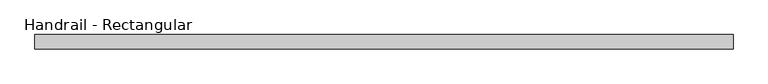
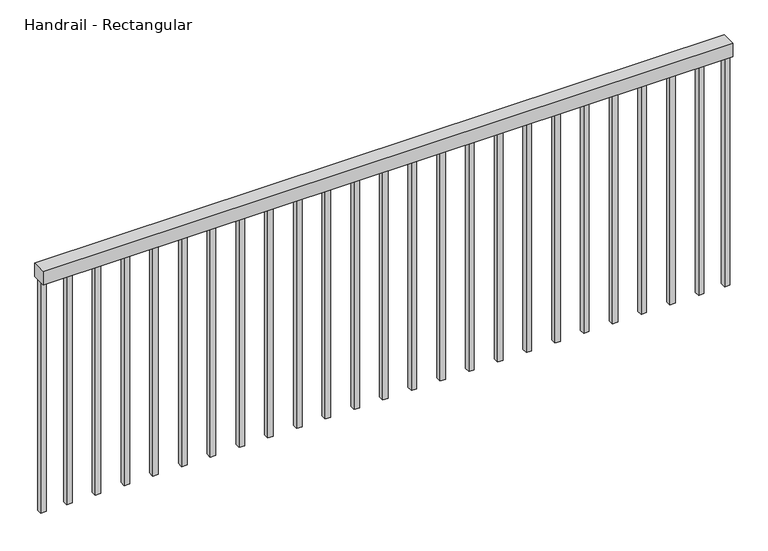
"""IFC4 building model written with IfcOpenShell, lengths in millimetres: railing geometry, Handrail - Rectangular."""

from ifc_helpers import new_model, si_unit, frame, origin, place, context, project, spatial, polyline, outline, extrude, source, transform, mapped, element, save


def handrail_rectangular_46f00ba5(model_context):
    return source(origin(), model_context, "Body", "SweptSolid", [
        extrude(outline(polyline([(49008.9536092, 3730.6430198), (49008.9536092, 3781.4430198), (51447.3536092, 3781.4430198), (51447.3536092, 3730.6430198), (49008.9536092, 3730.6430198)])), frame((0.0, 0.0, 3340.1), z_axis=(0.0, 0.0, 1.0), x_axis=(1.0, 0.0, 0.0)), (0.0, 0.0, 1.0), 50.8),
        extrude(outline(polyline([(51336.2286092, 3746.5180198), (51336.2286092, 3765.5680198), (51355.2786092, 3765.5680198), (51355.2786092, 3746.5180198), (51336.2286092, 3746.5180198)])), frame((0.0, 0.0, 2476.5), z_axis=(0.0, 0.0, 1.0), x_axis=(1.0, 0.0, 0.0)), (0.0, 0.0, 1.0), 863.6),
        extrude(outline(polyline([(51234.6286092, 3746.5180198), (51234.6286092, 3765.5680198), (51253.6786092, 3765.5680198), (51253.6786092, 3746.5180198), (51234.6286092, 3746.5180198)])), frame((0.0, 0.0, 2476.5), z_axis=(0.0, 0.0, 1.0), x_axis=(1.0, 0.0, 0.0)), (0.0, 0.0, 1.0), 863.6),
        extrude(outline(polyline([(51133.0286092, 3746.5180198), (51133.0286092, 3765.5680198), (51152.0786092, 3765.5680198), (51152.0786092, 3746.5180198), (51133.0286092, 3746.5180198)])), frame((0.0, 0.0, 2476.5), z_axis=(0.0, 0.0, 1.0), x_axis=(1.0, 0.0, 0.0)), (0.0, 0.0, 1.0), 863.6),
        extrude(outline(polyline([(51031.4286092, 3746.5180198), (51031.4286092, 3765.5680198), (51050.4786092, 3765.5680198), (51050.4786092, 3746.5180198), (51031.4286092, 3746.5180198)])), frame((0.0, 0.0, 2476.5), z_axis=(0.0, 0.0, 1.0), x_axis=(1.0, 0.0, 0.0)), (0.0, 0.0, 1.0), 863.6),
        extrude(outline(polyline([(50929.8286092, 3746.5180198), (50929.8286092, 3765.5680198), (50948.8786092, 3765.5680198), (50948.8786092, 3746.5180198), (50929.8286092, 3746.5180198)])), frame((0.0, 0.0, 2476.5), z_axis=(0.0, 0.0, 1.0), x_axis=(1.0, 0.0, 0.0)), (0.0, 0.0, 1.0), 863.6),
        extrude(outline(polyline([(50828.2286092, 3746.5180198), (50828.2286092, 3765.5680198), (50847.2786092, 3765.5680198), (50847.2786092, 3746.5180198), (50828.2286092, 3746.5180198)])), frame((0.0, 0.0, 2476.5), z_axis=(0.0, 0.0, 1.0), x_axis=(1.0, 0.0, 0.0)), (0.0, 0.0, 1.0), 863.6),
        extrude(outline(polyline([(50726.6286092, 3746.5180198), (50726.6286092, 3765.5680198), (50745.6786092, 3765.5680198), (50745.6786092, 3746.5180198), (50726.6286092, 3746.5180198)])), frame((0.0, 0.0, 2476.5), z_axis=(0.0, 0.0, 1.0), x_axis=(1.0, 0.0, 0.0)), (0.0, 0.0, 1.0), 863.6),
        extrude(outline(polyline([(50625.0286092, 3746.5180198), (50625.0286092, 3765.5680198), (50644.0786092, 3765.5680198), (50644.0786092, 3746.5180198), (50625.0286092, 3746.5180198)])), frame((0.0, 0.0, 2476.5), z_axis=(0.0, 0.0, 1.0), x_axis=(1.0, 0.0, 0.0)), (0.0, 0.0, 1.0), 863.6),
        extrude(outline(polyline([(50523.4286092, 3746.5180198), (50523.4286092, 3765.5680198), (50542.4786092, 3765.5680198), (50542.4786092, 3746.5180198), (50523.4286092, 3746.5180198)])), frame((0.0, 0.0, 2476.5), z_axis=(0.0, 0.0, 1.0), x_axis=(1.0, 0.0, 0.0)), (0.0, 0.0, 1.0), 863.6),
        extrude(outline(polyline([(50421.8286092, 3746.5180198), (50421.8286092, 3765.5680198), (50440.8786092, 3765.5680198), (50440.8786092, 3746.5180198), (50421.8286092, 3746.5180198)])), frame((0.0, 0.0, 2476.5), z_axis=(0.0, 0.0, 1.0), x_axis=(1.0, 0.0, 0.0)), (0.0, 0.0, 1.0), 863.6),
        extrude(outline(polyline([(50320.2286092, 3746.5180198), (50320.2286092, 3765.5680198), (50339.2786092, 3765.5680198), (50339.2786092, 3746.5180198), (50320.2286092, 3746.5180198)])), frame((0.0, 0.0, 2476.5), z_axis=(0.0, 0.0, 1.0), x_axis=(1.0, 0.0, 0.0)), (0.0, 0.0, 1.0), 863.6),
        extrude(outline(polyline([(50218.6286092, 3746.5180198), (50218.6286092, 3765.5680198), (50237.6786092, 3765.5680198), (50237.6786092, 3746.5180198), (50218.6286092, 3746.5180198)])), frame((0.0, 0.0, 2476.5), z_axis=(0.0, 0.0, 1.0), x_axis=(1.0, 0.0, 0.0)), (0.0, 0.0, 1.0), 863.6),
        extrude(outline(polyline([(50117.0286092, 3746.5180198), (50117.0286092, 3765.5680198), (50136.0786092, 3765.5680198), (50136.0786092, 3746.5180198), (50117.0286092, 3746.5180198)])), frame((0.0, 0.0, 2476.5), z_axis=(0.0, 0.0, 1.0), x_axis=(1.0, 0.0, 0.0)), (0.0, 0.0, 1.0), 863.6),
        extrude(outline(polyline([(50015.4286092, 3746.5180198), (50015.4286092, 3765.5680198), (50034.4786092, 3765.5680198), (50034.4786092, 3746.5180198), (50015.4286092, 3746.5180198)])), frame((0.0, 0.0, 2476.5), z_axis=(0.0, 0.0, 1.0), x_axis=(1.0, 0.0, 0.0)), (0.0, 0.0, 1.0), 863.6),
        extrude(outline(polyline([(49913.8286092, 3746.5180198), (49913.8286092, 3765.5680198), (49932.8786092, 3765.5680198), (49932.8786092, 3746.5180198), (49913.8286092, 3746.5180198)])), frame((0.0, 0.0, 2476.5), z_axis=(0.0, 0.0, 1.0), x_axis=(1.0, 0.0, 0.0)), (0.0, 0.0, 1.0), 863.6),
        extrude(outline(polyline([(49812.2286092, 3746.5180198), (49812.2286092, 3765.5680198), (49831.2786092, 3765.5680198), (49831.2786092, 3746.5180198), (49812.2286092, 3746.5180198)])), frame((0.0, 0.0, 2476.5), z_axis=(0.0, 0.0, 1.0), x_axis=(1.0, 0.0, 0.0)), (0.0, 0.0, 1.0), 863.6),
        extrude(outline(polyline([(49710.6286092, 3746.5180198), (49710.6286092, 3765.5680198), (49729.6786092, 3765.5680198), (49729.6786092, 3746.5180198), (49710.6286092, 3746.5180198)])), frame((0.0, 0.0, 2476.5), z_axis=(0.0, 0.0, 1.0), x_axis=(1.0, 0.0, 0.0)), (0.0, 0.0, 1.0), 863.6),
        extrude(outline(polyline([(49609.0286092, 3746.5180198), (49609.0286092, 3765.5680198), (49628.0786092, 3765.5680198), (49628.0786092, 3746.5180198), (49609.0286092, 3746.5180198)])), frame((0.0, 0.0, 2476.5), z_axis=(0.0, 0.0, 1.0), x_axis=(1.0, 0.0, 0.0)), (0.0, 0.0, 1.0), 863.6),
        extrude(outline(polyline([(49507.4286092, 3746.5180198), (49507.4286092, 3765.5680198), (49526.4786092, 3765.5680198), (49526.4786092, 3746.5180198), (49507.4286092, 3746.5180198)])), frame((0.0, 0.0, 2476.5), z_axis=(0.0, 0.0, 1.0), x_axis=(1.0, 0.0, 0.0)), (0.0, 0.0, 1.0), 863.6),
        extrude(outline(polyline([(49405.8286092, 3746.5180198), (49405.8286092, 3765.5680198), (49424.8786092, 3765.5680198), (49424.8786092, 3746.5180198), (49405.8286092, 3746.5180198)])), frame((0.0, 0.0, 2476.5), z_axis=(0.0, 0.0, 1.0), x_axis=(1.0, 0.0, 0.0)), (0.0, 0.0, 1.0), 863.6),
        extrude(outline(polyline([(49304.2286092, 3746.5180198), (49304.2286092, 3765.5680198), (49323.2786092, 3765.5680198), (49323.2786092, 3746.5180198), (49304.2286092, 3746.5180198)])), frame((0.0, 0.0, 2476.5), z_axis=(0.0, 0.0, 1.0), x_axis=(1.0, 0.0, 0.0)), (0.0, 0.0, 1.0), 863.6),
        extrude(outline(polyline([(49202.6286092, 3746.5180198), (49202.6286092, 3765.5680198), (49221.6786092, 3765.5680198), (49221.6786092, 3746.5180198), (49202.6286092, 3746.5180198)])), frame((0.0, 0.0, 2476.5), z_axis=(0.0, 0.0, 1.0), x_axis=(1.0, 0.0, 0.0)), (0.0, 0.0, 1.0), 863.6),
        extrude(outline(polyline([(49101.0286092, 3746.5180198), (49101.0286092, 3765.5680198), (49120.0786092, 3765.5680198), (49120.0786092, 3746.5180198), (49101.0286092, 3746.5180198)])), frame((0.0, 0.0, 2476.5), z_axis=(0.0, 0.0, 1.0), x_axis=(1.0, 0.0, 0.0)), (0.0, 0.0, 1.0), 863.6),
        extrude(outline(polyline([(51428.3036092, 3746.5180198), (51428.3036092, 3765.5680198), (51447.3536092, 3765.5680198), (51447.3536092, 3746.5180198), (51428.3036092, 3746.5180198)])), frame((0.0, 0.0, 2476.5), z_axis=(0.0, 0.0, 1.0), x_axis=(1.0, 0.0, 0.0)), (0.0, 0.0, 1.0), 863.6),
        extrude(outline(polyline([(49008.9536092, 3746.5180198), (49008.9536092, 3765.5680198), (49028.0036092, 3765.5680198), (49028.0036092, 3746.5180198), (49008.9536092, 3746.5180198)])), frame((0.0, 0.0, 2476.5), z_axis=(0.0, 0.0, 1.0), x_axis=(1.0, 0.0, 0.0)), (0.0, 0.0, 1.0), 863.6),
    ])


if __name__ == "__main__":
    model = new_model("IFC4")
    model_context = context("Model", 3, world=origin())
    ifc_project = project(units=[si_unit("LENGTHUNIT", "METRE", prefix="MILLI")], contexts=[model_context])
    site = spatial("IfcSite", under=ifc_project)
    building = spatial("IfcBuilding", under=site)
    placement = place(None, origin())
    handrail_rectangular_shape = handrail_rectangular_46f00ba5(model_context)
    element("IfcRailing", 1, ObjectType="Handrail - Rectangular", at=placement, inside=building, context=model_context, shape_type="MappedRepresentation", body=[
        mapped(handrail_rectangular_shape, transform((0.0, 0.0, 0.0), x_axis=(1.0, 0.0, 0.0), y_axis=(0.0, 1.0, 0.0), z_axis=(0.0, 0.0, 1.0))),
    ])
    save(model, "model.ifc")
